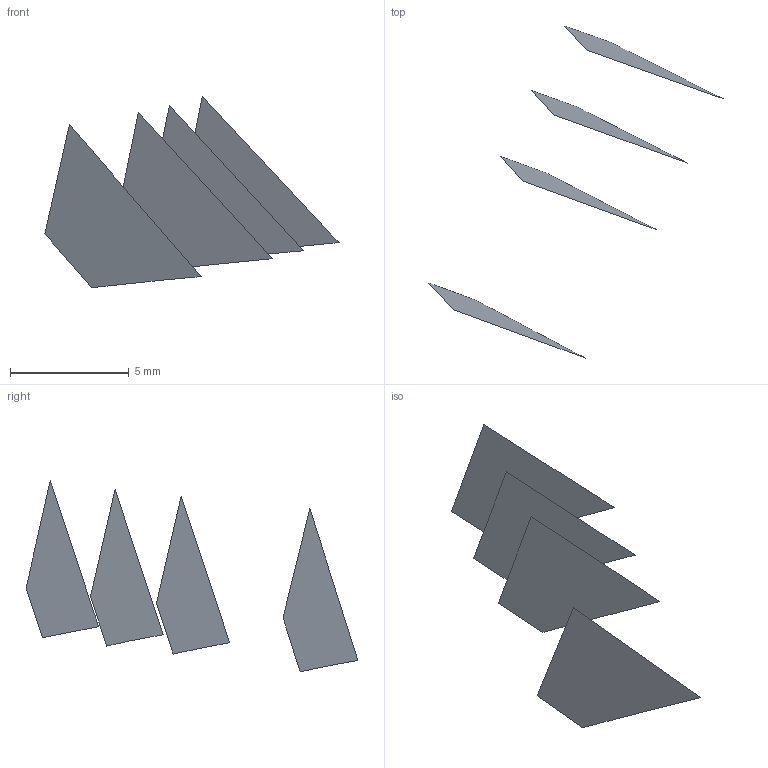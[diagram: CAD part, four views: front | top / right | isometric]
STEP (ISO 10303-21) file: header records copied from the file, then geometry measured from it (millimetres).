
FILE_DESCRIPTION(('FreeCAD Model'),'2;1');
FILE_NAME('Open CASCADE Shape Model','2022-05-22T07:50:29',('FreeCAD'),( 'FreeCAD'),'Open CASCADE STEP processor 7.5','FreeCAD','Unknown');
FILE_SCHEMA(('AUTOMOTIVE_DESIGN { 1 0 10303 214 1 1 1 1 }'));
Length unit declared in the file: millimetre
Products named in the file (5): Open CASCADE STEP translator 7.5 4; Open CASCADE STEP translator 7.5 4.1; Open CASCADE STEP translator 7.5 4.2; Open CASCADE STEP translator 7.5 4.3; Open CASCADE STEP translator 7.5 4.4
Assembly tree (4 placements, depth 2):
  Open CASCADE STEP translator 7.5 4
    Open CASCADE STEP translator 7.5 4.1
    Open CASCADE STEP translator 7.5 4.2
    Open CASCADE STEP translator 7.5 4.3
    Open CASCADE STEP translator 7.5 4.4
Bounding box: 12.38 x 13.97 x 8.05 mm (x, y, z)
Surface area: 95.2 mm2 (no closed solid volume)
Topology: 0 solids, 4 shells, 4 faces, 29 edges, 29 vertices
Faces by surface type: bspline 4
Entity records: 505 total; most frequent: CARTESIAN_POINT 166, B_SPLINE_CURVE_WITH_KNOTS 58, ORIENTED_EDGE 29, EDGE_CURVE 29, VERTEX_POINT 29, SURFACE_CURVE 29, PCURVE 29, DEFINITIONAL_REPRESENTATION 29
